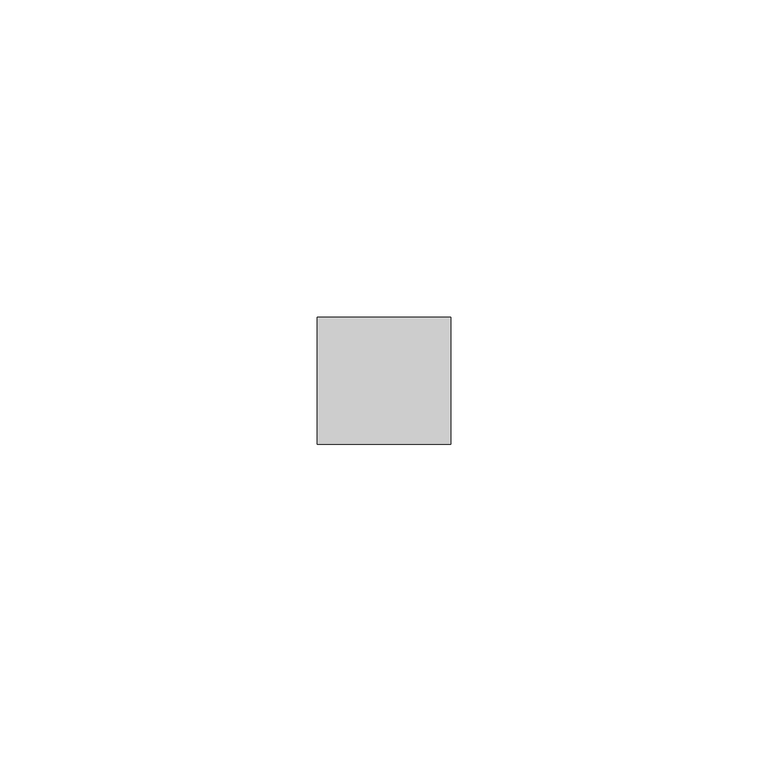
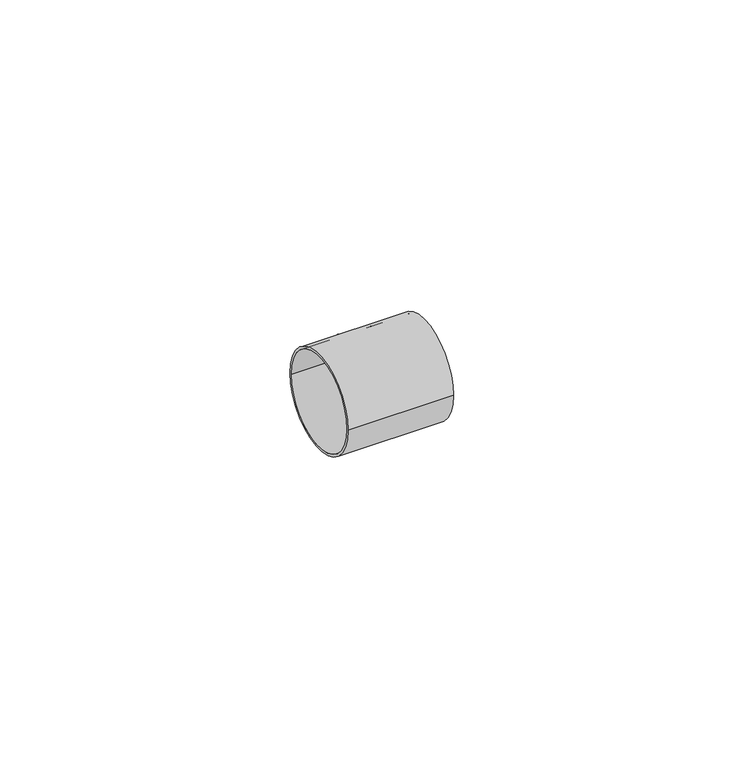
"""IFC4 building model written with IfcOpenShell, lengths in millimetres: pipe fitting geometry, БИР ПЕКС_НПР_Гильза : Гильза для труб ПЕКС."""

from ifc_helpers import new_model, si_unit, point, frame, origin, origin_2d, place, context, project, spatial, circle_curve, trimmed, segment, composite_curve, outline, extrude, source, transform, mapped, element, save


def pipe_fitting_8322aa06(model_context):
    return source(origin(), model_context, "Body", "SweptSolid", [
        extrude(outline(composite_curve([segment(trimmed(circle_curve(origin_2d(), 10.0), [point((-10.0, 0.0))], [point((10.0, 0.0))], False, "CARTESIAN"), True, "CONTINUOUS"), segment(trimmed(circle_curve(origin_2d(), 10.0), [point((10.0, 0.0))], [point((-10.0, 0.0))], False, "CARTESIAN"), True, "CONTINUOUS")], self_intersect=False), holes=[composite_curve([segment(trimmed(circle_curve(origin_2d(), 9.5), [point((-9.5, 0.0))], [point((9.5, 0.0))], True, "CARTESIAN"), True, "CONTINUOUS"), segment(trimmed(circle_curve(origin_2d(), 9.5), [point((9.5, 0.0))], [point((-9.5, 0.0))], True, "CARTESIAN"), True, "CONTINUOUS")], self_intersect=False)]), frame((-10.5, 0.0, 0.0), z_axis=(1.0, 0.0, 0.0), x_axis=(0.0, 1.0, 0.0)), (0.0, 0.0, 1.0), 21.0),
        extrude(outline(composite_curve([segment(trimmed(circle_curve(origin_2d(), 10.0), [point((-10.0, 0.0))], [point((10.0, 0.0))], False, "CARTESIAN"), True, "CONTINUOUS"), segment(trimmed(circle_curve(origin_2d(), 10.0), [point((10.0, 0.0))], [point((-10.0, 0.0))], False, "CARTESIAN"), True, "CONTINUOUS")], self_intersect=False), holes=[composite_curve([segment(trimmed(circle_curve(origin_2d(), 9.5), [point((-9.5, 0.0))], [point((9.5, 0.0))], True, "CARTESIAN"), True, "CONTINUOUS"), segment(trimmed(circle_curve(origin_2d(), 9.5), [point((9.5, 0.0))], [point((-9.5, 0.0))], True, "CARTESIAN"), True, "CONTINUOUS")], self_intersect=False)]), frame((-3.0, 0.0, 0.0), z_axis=(1.0, 0.0, 0.0), x_axis=(0.0, 1.0, 0.0)), (0.0, 0.0, 1.0), 6.0),
    ])


if __name__ == "__main__":
    model = new_model("IFC4")
    model_context = context("Model", 3, world=origin())
    ifc_project = project(units=[si_unit("LENGTHUNIT", "METRE", prefix="MILLI")], contexts=[model_context])
    site = spatial("IfcSite", under=ifc_project)
    building = spatial("IfcBuilding", under=site)
    placement = place(None, origin())
    pipe_fitting_shape = pipe_fitting_8322aa06(model_context)
    element("IfcPipeFitting", 1, ObjectType="БИР ПЕКС_НПР_Гильза : Гильза для труб ПЕКС", at=placement, inside=building, context=model_context, shape_type="MappedRepresentation", body=[
        mapped(pipe_fitting_shape, transform((0.0, 0.0, 0.0), x_axis=(1.0, 0.0, 0.0), y_axis=(0.0, 1.0, 0.0), z_axis=(0.0, 0.0, 1.0))),
    ])
    save(model, "model.ifc")
